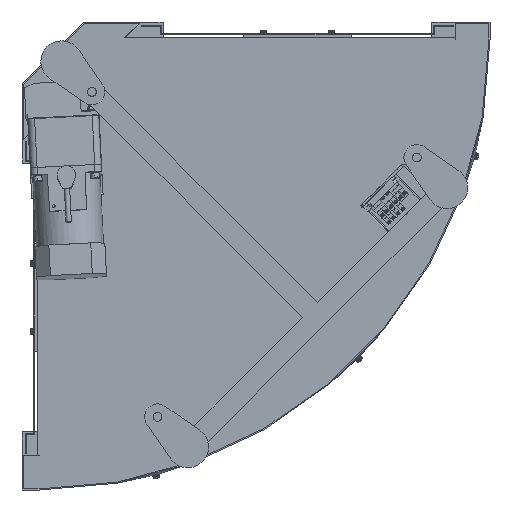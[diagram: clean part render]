
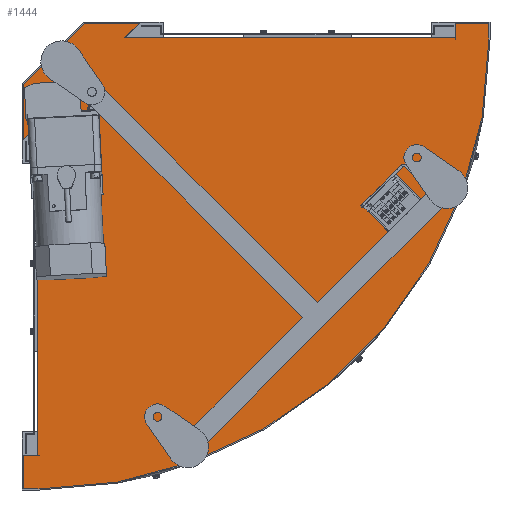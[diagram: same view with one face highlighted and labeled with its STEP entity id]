
A CAD part, front view. The second image highlights one B-rep face of the part: STEP entity #1444.
In plain terms, the highlighted planar face has unit normal (0, -1, 0).
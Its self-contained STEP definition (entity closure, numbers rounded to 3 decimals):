
#1444=ADVANCED_FACE('',(#3894),#3893,.F.);
#3893=PLANE('',#19011);
#3894=FACE_OUTER_BOUND('',#19012,.T.);
#19008=CARTESIAN_POINT('',(-33.4,-145.7,-671.5));
#19009=DIRECTION('',(0.,1.,0.));
#19010=DIRECTION('',(0.,0.,1.));
#19011=AXIS2_PLACEMENT_3D('',#19008,#19009,#19010);
#19012=EDGE_LOOP('',(#28762,#28763,#28764,#28765,#28766,#28767,#28768,#28769,#28770,#28771,#28772,#28773,#28774,#28775,#28776,#28777));
#28762=ORIENTED_EDGE('',*,*,#36163,.F.);
#28763=ORIENTED_EDGE('',*,*,#36385,.F.);
#28764=ORIENTED_EDGE('',*,*,#36375,.T.);
#28765=ORIENTED_EDGE('',*,*,#36248,.T.);
#28766=ORIENTED_EDGE('',*,*,#36242,.T.);
#28767=ORIENTED_EDGE('',*,*,#36250,.T.);
#28768=ORIENTED_EDGE('',*,*,#36379,.T.);
#28769=ORIENTED_EDGE('',*,*,#36383,.F.);
#28770=ORIENTED_EDGE('',*,*,#36381,.F.);
#28771=ORIENTED_EDGE('',*,*,#36273,.T.);
#28772=ORIENTED_EDGE('',*,*,#36266,.T.);
#28773=ORIENTED_EDGE('',*,*,#36263,.T.);
#28774=ORIENTED_EDGE('',*,*,#36260,.T.);
#28775=ORIENTED_EDGE('',*,*,#36257,.T.);
#28776=ORIENTED_EDGE('',*,*,#36254,.T.);
#28777=ORIENTED_EDGE('',*,*,#36281,.T.);
#36163=EDGE_CURVE('',#40255,#40240,#40262,.T.);
#36242=EDGE_CURVE('',#40776,#40783,#40790,.T.);
#36248=EDGE_CURVE('',#40823,#40776,#40830,.T.);
#36250=EDGE_CURVE('',#40783,#40836,#40843,.T.);
#36254=EDGE_CURVE('',#40849,#40864,#40871,.T.);
#36257=EDGE_CURVE('',#40877,#40849,#40891,.T.);
#36260=EDGE_CURVE('',#40897,#40877,#40911,.T.);
#36263=EDGE_CURVE('',#40917,#40897,#40931,.T.);
#36266=EDGE_CURVE('',#40937,#40917,#40951,.T.);
#36273=EDGE_CURVE('',#40997,#40937,#40998,.T.);
#36281=EDGE_CURVE('',#40864,#40240,#41050,.T.);
#36375=EDGE_CURVE('',#41673,#40823,#41674,.T.);
#36379=EDGE_CURVE('',#40836,#41694,#41701,.T.);
#36381=EDGE_CURVE('',#40997,#41714,#41715,.T.);
#36383=EDGE_CURVE('',#41714,#41694,#41727,.T.);
#36385=EDGE_CURVE('',#41673,#40255,#41739,.T.);
#40240=VERTEX_POINT('',#66744);
#40255=VERTEX_POINT('',#66754);
#40262=CIRCLE('',#66761,612.5);
#40776=VERTEX_POINT('',#67073);
#40783=VERTEX_POINT('',#67077);
#40790=LINE('',#67081,#67082);
#40823=VERTEX_POINT('',#67101);
#40830=LINE('',#67105,#67106);
#40836=VERTEX_POINT('',#67108);
#40843=LINE('',#67112,#67113);
#40849=VERTEX_POINT('',#67115);
#40864=VERTEX_POINT('',#67124);
#40871=LINE('',#67128,#67129);
#40877=VERTEX_POINT('',#67131);
#40891=LINE('',#67139,#67140);
#40897=VERTEX_POINT('',#67142);
#40911=CIRCLE('',#67154,661.5);
#40917=VERTEX_POINT('',#67155);
#40931=LINE('',#67163,#67164);
#40937=VERTEX_POINT('',#67166);
#40951=LINE('',#67174,#67175);
#40997=VERTEX_POINT('',#67199);
#40998=LINE('',#67200,#67201);
#41050=LINE('',#67230,#67231);
#41673=VERTEX_POINT('',#67599);
#41674=LINE('',#67600,#67601);
#41694=VERTEX_POINT('',#67611);
#41701=LINE('',#67615,#67616);
#41714=VERTEX_POINT('',#67623);
#41715=CIRCLE('',#67627,612.5);
#41727=LINE('',#67631,#67632);
#41739=LINE('',#67637,#67638);
#66744=CARTESIAN_POINT('',(612.5,-145.7,0.));
#66754=CARTESIAN_POINT('',(612.498,-145.7,1.544));
#66758=CARTESIAN_POINT('',(0.,-145.7,0.));
#66759=DIRECTION('',(0.,1.,0.));
#66760=DIRECTION('',(0.,0.,-1.));
#66761=AXIS2_PLACEMENT_3D('',#66758,#66759,#66760);
#67073=CARTESIAN_POINT('',(66.663,-145.7,23.4));
#67077=CARTESIAN_POINT('',(-23.4,-145.7,-66.663));
#67081=CARTESIAN_POINT('',(66.663,-145.7,23.4));
#67082=VECTOR('',#67083,127.368);
#67083=DIRECTION('',(-0.707,0.,-0.707));
#67101=CARTESIAN_POINT('',(147.5,-145.7,23.4));
#67105=CARTESIAN_POINT('',(147.5,-145.7,23.4));
#67106=VECTOR('',#67107,80.837);
#67107=DIRECTION('',(-1.,0.,0.));
#67108=CARTESIAN_POINT('',(-23.4,-145.7,-147.5));
#67112=CARTESIAN_POINT('',(-23.4,-145.7,-66.663));
#67113=VECTOR('',#67114,80.837);
#67114=DIRECTION('',(0.,0.,-1.));
#67115=CARTESIAN_POINT('',(661.5,-145.7,23.4));
#67124=CARTESIAN_POINT('',(612.5,-145.7,23.4));
#67128=CARTESIAN_POINT('',(661.5,-145.7,23.4));
#67129=VECTOR('',#67130,49.);
#67130=DIRECTION('',(-1.,0.,0.));
#67131=CARTESIAN_POINT('',(661.5,-145.7,0.));
#67139=CARTESIAN_POINT('',(661.5,-145.7,0.));
#67140=VECTOR('',#67141,23.4);
#67141=DIRECTION('',(0.,0.,1.));
#67142=CARTESIAN_POINT('',(0.,-145.7,-661.5));
#67151=CARTESIAN_POINT('',(0.,-145.7,0.));
#67152=DIRECTION('',(0.,-1.,0.));
#67153=DIRECTION('',(0.,0.,-1.));
#67154=AXIS2_PLACEMENT_3D('',#67151,#67152,#67153);
#67155=CARTESIAN_POINT('',(-23.4,-145.7,-661.5));
#67163=CARTESIAN_POINT('',(-23.4,-145.7,-661.5));
#67164=VECTOR('',#67165,23.4);
#67165=DIRECTION('',(1.,0.,0.));
#67166=CARTESIAN_POINT('',(-23.4,-145.7,-612.5));
#67174=CARTESIAN_POINT('',(-23.4,-145.7,-612.5));
#67175=VECTOR('',#67176,49.);
#67176=DIRECTION('',(0.,0.,-1.));
#67199=CARTESIAN_POINT('',(0.,-145.7,-612.5));
#67200=CARTESIAN_POINT('',(0.,-145.7,-612.5));
#67201=VECTOR('',#67202,23.4);
#67202=DIRECTION('',(-1.,0.,0.));
#67230=CARTESIAN_POINT('',(612.5,-145.7,23.4));
#67231=VECTOR('',#67232,23.4);
#67232=DIRECTION('',(0.,0.,-1.));
#67599=CARTESIAN_POINT('',(125.729,-145.7,1.629));
#67600=CARTESIAN_POINT('',(125.729,-145.7,1.629));
#67601=VECTOR('',#67602,30.789);
#67602=DIRECTION('',(0.707,0.,0.707));
#67611=CARTESIAN_POINT('',(-1.629,-145.7,-125.729));
#67615=CARTESIAN_POINT('',(-23.4,-145.7,-147.5));
#67616=VECTOR('',#67617,30.789);
#67617=DIRECTION('',(0.707,0.,0.707));
#67623=CARTESIAN_POINT('',(-1.544,-145.7,-612.498));
#67624=CARTESIAN_POINT('',(0.,-145.7,0.));
#67625=DIRECTION('',(0.,1.,0.));
#67626=DIRECTION('',(0.,0.,-1.));
#67627=AXIS2_PLACEMENT_3D('',#67624,#67625,#67626);
#67631=CARTESIAN_POINT('',(-1.544,-145.7,-612.498));
#67632=VECTOR('',#67633,486.769);
#67633=DIRECTION('',(0.,0.,1.));
#67637=CARTESIAN_POINT('',(125.729,-145.7,1.629));
#67638=VECTOR('',#67639,486.769);
#67639=DIRECTION('',(1.,0.,0.));
